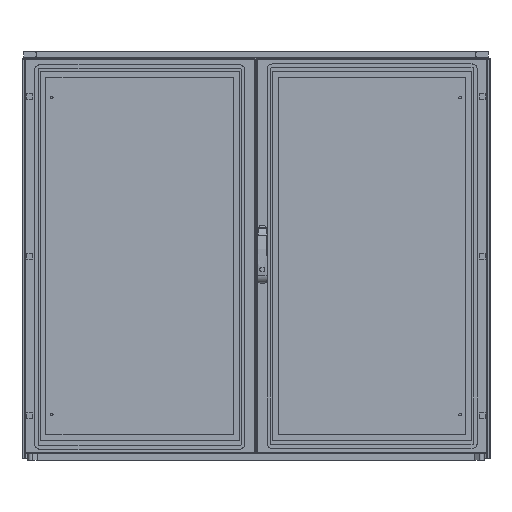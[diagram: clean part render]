
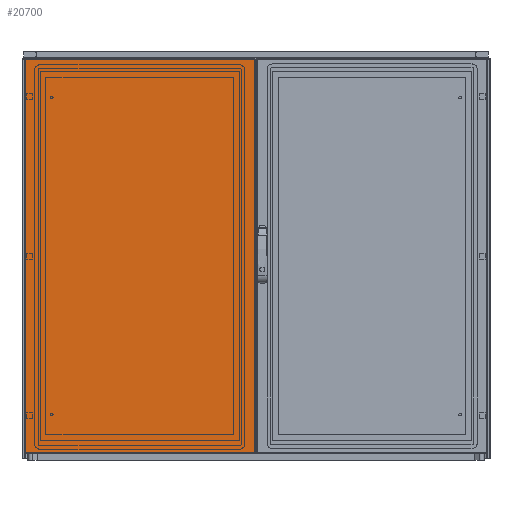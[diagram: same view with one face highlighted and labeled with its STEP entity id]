
A CAD part, front view. The second image highlights one B-rep face of the part: STEP entity #20700.
In plain terms, the highlighted planar face has unit normal (0, -1, 0).
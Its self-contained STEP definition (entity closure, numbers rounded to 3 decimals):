
#5445=ORIENTED_EDGE('',*,*,#9594,.T.);
#5446=ORIENTED_EDGE('',*,*,#9595,.T.);
#5447=ORIENTED_EDGE('',*,*,#9596,.T.);
#5448=ORIENTED_EDGE('',*,*,#9597,.T.);
#9594=EDGE_CURVE('',#11949,#11950,#13961,.F.);
#9595=EDGE_CURVE('',#11950,#11951,#13962,.F.);
#9596=EDGE_CURVE('',#11951,#11952,#13963,.F.);
#9597=EDGE_CURVE('',#11952,#11949,#13964,.F.);
#11949=VERTEX_POINT('',#33833);
#11950=VERTEX_POINT('',#33834);
#11951=VERTEX_POINT('',#33836);
#11952=VERTEX_POINT('',#33838);
#13961=LINE('',#33832,#16002);
#13962=LINE('',#33835,#16003);
#13963=LINE('',#33837,#16004);
#13964=LINE('',#33839,#16005);
#16002=VECTOR('',#27153,1000.);
#16003=VECTOR('',#27154,1000.);
#16004=VECTOR('',#27155,1000.);
#16005=VECTOR('',#27156,1000.);
#17510=EDGE_LOOP('',(#5445,#5446,#5447,#5448));
#18797=FACE_BOUND('',#17510,.T.);
#19713=PLANE('',#22526);
#20700=ADVANCED_FACE('',(#18797),#19713,.F.);
#22526=AXIS2_PLACEMENT_3D('',#33831,#27151,#27152);
#27151=DIRECTION('',(0.,1.,0.));
#27152=DIRECTION('',(0.,0.,1.));
#27153=DIRECTION('',(0.,0.,-1.));
#27154=DIRECTION('',(1.,0.,0.));
#27155=DIRECTION('',(0.,0.,1.));
#27156=DIRECTION('',(-1.,0.,0.));
#33831=CARTESIAN_POINT('',(0.,0.,0.));
#33832=CARTESIAN_POINT('',(394.5,0.,0.));
#33833=CARTESIAN_POINT('',(394.5,0.,-677.));
#33834=CARTESIAN_POINT('',(394.5,0.,677.));
#33835=CARTESIAN_POINT('',(0.,0.,677.));
#33836=CARTESIAN_POINT('',(-394.5,0.,677.));
#33837=CARTESIAN_POINT('',(-394.5,0.,0.));
#33838=CARTESIAN_POINT('',(-394.5,0.,-677.));
#33839=CARTESIAN_POINT('',(0.,0.,-677.));
